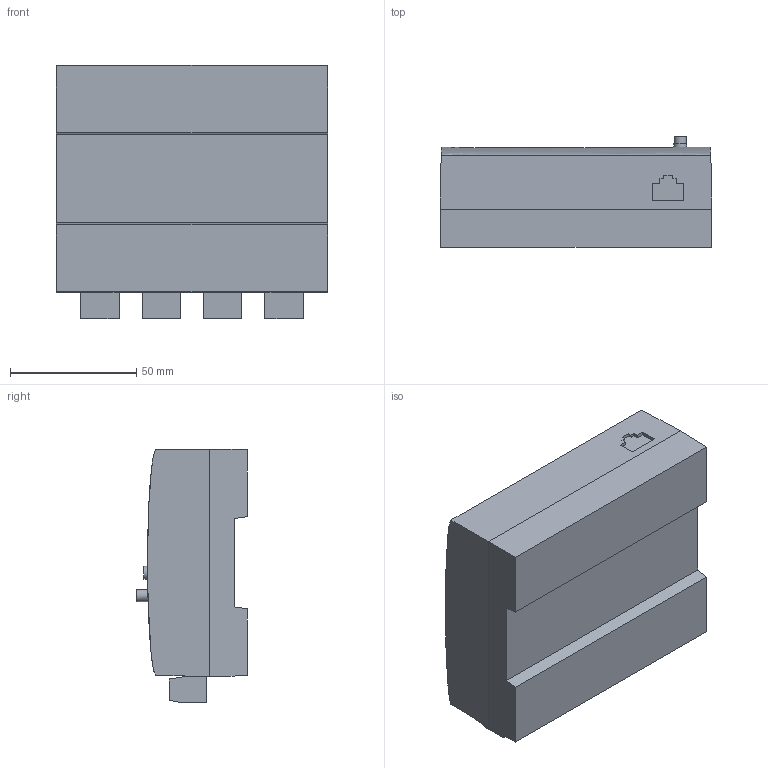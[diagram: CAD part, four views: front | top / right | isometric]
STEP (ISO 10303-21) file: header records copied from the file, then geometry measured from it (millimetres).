
FILE_DESCRIPTION(/* description */ ('STEP AP242','CAx-IF Rec.Pracs.---Representation and Presentation of Product Manufacturing Information (PMI)---4.0---2014-10-13','CAx-IF Rec.Pracs.---3D Tessellated Geometry---0.4---2014-09-14','2;1'),/* implementation_level */ '2;1');
FILE_NAME(/* name */ '6634ec407859092b1b9c4990',/* time_stamp */ '2024-05-03T13:53:04Z',/* author */ (''),/* organization */ (''),/* preprocessor_version */ 'ST-DEVELOPER v20',/* originating_system */ ' ',/* authorisation */ ' ');
FILE_SCHEMA (('AP242_MANAGED_MODEL_BASED_3D_ENGINEERING_MIM_LF { 1 0 10303 442 1 1 4 }'));
Length unit declared in the file: metre
Products named in the file (3): DIN_abs; 5PinGreen; XPC
Assembly tree (5 placements, depth 2):
  DIN_abs
    5PinGreen  x4
    XPC
Bounding box: 107.5 x 43.84 x 100.5 mm (x, y, z)
Volume: 361269.6 mm3; surface area: 39459.8 mm2
Topology: 5 solids, 5 shells, 107 faces, 248 edges, 162 vertices
Faces by surface type: plane 88, cylinder 10, bspline 9
Full cylindrical faces by diameter (mm): 2.3 x8, 4.8 x1, 5.1 x1
Entity records: 2385 total; most frequent: CARTESIAN_POINT 676, ORIENTED_EDGE 328, DIRECTION 294, EDGE_CURVE 164, LINE 142, VECTOR 142, VERTEX_POINT 112, EDGE_LOOP 98
